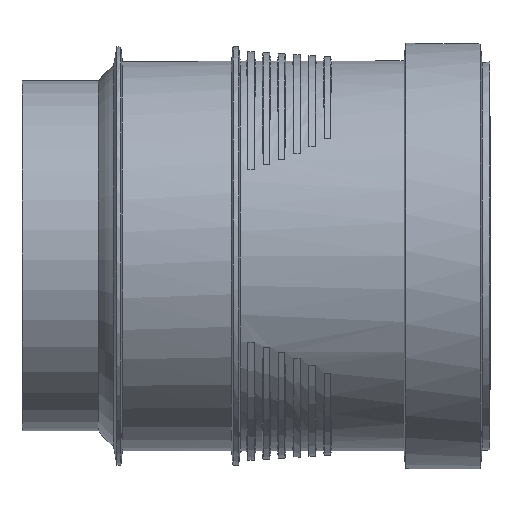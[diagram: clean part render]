
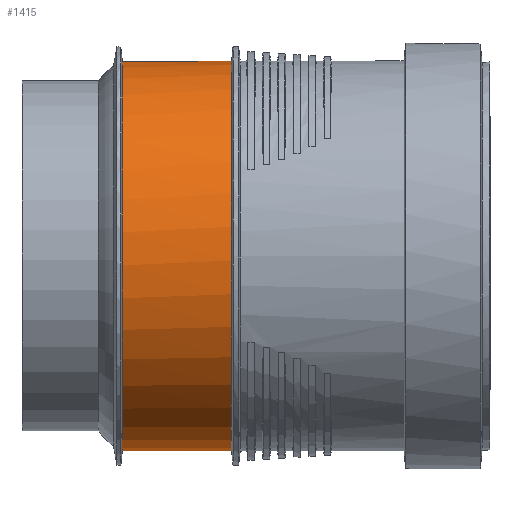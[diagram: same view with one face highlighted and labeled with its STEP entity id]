
A CAD part, front view. The second image highlights one B-rep face of the part: STEP entity #1415.
In plain terms, the highlighted cylindrical face has radius 89.25 mm (diameter 178.5 mm), a full revolution.
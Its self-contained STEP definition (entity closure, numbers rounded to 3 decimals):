
#258=FACE_BOUND('',#389,.T.);
#294=FACE_OUTER_BOUND('',#388,.T.);
#388=EDGE_LOOP('',(#931,#932));
#389=EDGE_LOOP('',(#933));
#491=CIRCLE('',#1512,89.25);
#492=CIRCLE('',#1514,89.25);
#494=CIRCLE('',#1518,89.25);
#565=VERTEX_POINT('',#2045);
#566=VERTEX_POINT('',#2047);
#568=VERTEX_POINT('',#2056);
#714=EDGE_CURVE('',#566,#565,#491,.T.);
#716=EDGE_CURVE('',#566,#565,#492,.T.);
#718=EDGE_CURVE('',#568,#568,#494,.T.);
#931=ORIENTED_EDGE('',*,*,#716,.F.);
#932=ORIENTED_EDGE('',*,*,#714,.T.);
#933=ORIENTED_EDGE('',*,*,#718,.F.);
#1299=CYLINDRICAL_SURFACE('',#1517,89.25);
#1415=ADVANCED_FACE('',(#294,#258),#1299,.T.);
#1512=AXIS2_PLACEMENT_3D('',#2048,#1696,#1697);
#1514=AXIS2_PLACEMENT_3D('',#2051,#1701,#1702);
#1517=AXIS2_PLACEMENT_3D('',#2055,#1707,#1708);
#1518=AXIS2_PLACEMENT_3D('',#2057,#1709,#1710);
#1696=DIRECTION('center_axis',(1.,0.,0.));
#1697=DIRECTION('ref_axis',(0.,-0.479,-0.878));
#1701=DIRECTION('center_axis',(-1.,0.,0.));
#1702=DIRECTION('ref_axis',(0.,-1.,0.));
#1707=DIRECTION('center_axis',(1.,0.,0.));
#1708=DIRECTION('ref_axis',(0.,-1.,0.));
#1709=DIRECTION('center_axis',(1.,0.,0.));
#1710=DIRECTION('ref_axis',(0.,0.479,0.878));
#2045=CARTESIAN_POINT('',(46.,42.789,-78.324));
#2047=CARTESIAN_POINT('',(46.,-42.789,-78.324));
#2048=CARTESIAN_POINT('Origin',(46.,0.,0.));
#2051=CARTESIAN_POINT('Origin',(46.,0.,0.));
#2055=CARTESIAN_POINT('Origin',(107.25,0.,0.));
#2056=CARTESIAN_POINT('',(96.,42.789,78.324));
#2057=CARTESIAN_POINT('Origin',(96.,0.,0.));
